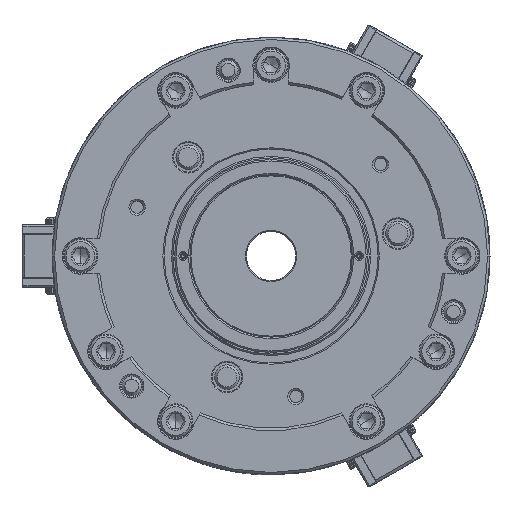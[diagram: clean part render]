
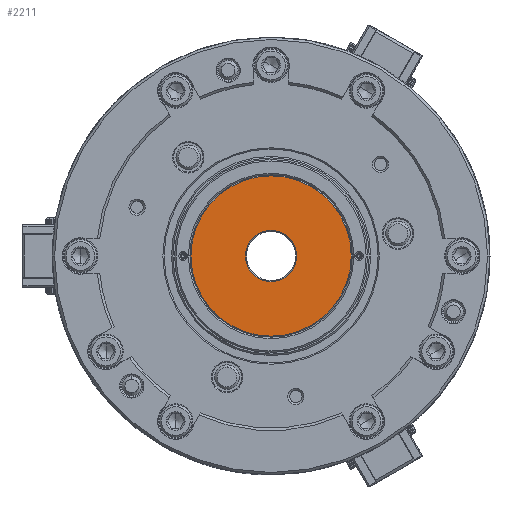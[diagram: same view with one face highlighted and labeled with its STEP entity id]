
A CAD part, left-side view. The second image highlights one B-rep face of the part: STEP entity #2211.
In plain terms, the highlighted planar face has unit normal (-1, 0, 0).
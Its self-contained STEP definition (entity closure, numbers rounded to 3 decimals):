
#2211 = ADVANCED_FACE ( 'NONE', ( #66389, #83500 ), #65345, .T. ) ;
#12753 = AXIS2_PLACEMENT_3D ( 'NONE', #130669, #131714, #17167 ) ;
#15394 = CARTESIAN_POINT ( 'NONE',  ( -28.5, 0., 0. ) ) ;
#16117 = AXIS2_PLACEMENT_3D ( 'NONE', #112217, #81136, #64051 ) ;
#17167 = DIRECTION ( 'NONE',  ( 0., 0., 1. ) ) ;
#19086 = EDGE_LOOP ( 'NONE', ( #141200, #54155 ) ) ;
#19448 = CARTESIAN_POINT ( 'NONE',  ( -28.5, 0., 0. ) ) ;
#21514 = DIRECTION ( 'NONE',  ( 0., 0., 1. ) ) ;
#23612 = DIRECTION ( 'NONE',  ( -1., 0., 0. ) ) ;
#31096 = DIRECTION ( 'NONE',  ( 0., 0., 1. ) ) ;
#32151 = CARTESIAN_POINT ( 'NONE',  ( -28.5, 0., 0. ) ) ;
#34593 = ORIENTED_EDGE ( 'NONE', *, *, #131419, .T. ) ;
#42643 = VERTEX_POINT ( 'NONE', #178509 ) ;
#54155 = ORIENTED_EDGE ( 'NONE', *, *, #149139, .F. ) ;
#59427 = VERTEX_POINT ( 'NONE', #131452 ) ;
#64051 = DIRECTION ( 'NONE',  ( 0., 0., 1. ) ) ;
#65345 = PLANE ( 'NONE',  #12753 ) ;
#66389 = FACE_OUTER_BOUND ( 'NONE', #99034, .T. ) ;
#71499 = EDGE_CURVE ( 'NONE', #185210, #121784, #75561, .T. ) ;
#75561 = CIRCLE ( 'NONE', #157659, 32.6 ) ;
#78233 = DIRECTION ( 'NONE',  ( -1., 0., 0. ) ) ;
#81136 = DIRECTION ( 'NONE',  ( -1., 0., 0. ) ) ;
#83500 = FACE_BOUND ( 'NONE', #19086, .T. ) ;
#87828 = CIRCLE ( 'NONE', #207574, 10.4 ) ;
#97739 = EDGE_CURVE ( 'NONE', #59427, #42643, #87828, .T. ) ;
#99034 = EDGE_LOOP ( 'NONE', ( #131390, #34593 ) ) ;
#106443 = CARTESIAN_POINT ( 'NONE',  ( -28.5, 0., 32.6 ) ) ;
#112217 = CARTESIAN_POINT ( 'NONE',  ( -28.5, 0., 0. ) ) ;
#121784 = VERTEX_POINT ( 'NONE', #106443 ) ;
#125126 = CARTESIAN_POINT ( 'NONE',  ( -28.5, 0., -32.6 ) ) ;
#130669 = CARTESIAN_POINT ( 'NONE',  ( -28.5, -32.6, 0. ) ) ;
#131390 = ORIENTED_EDGE ( 'NONE', *, *, #71499, .T. ) ;
#131419 = EDGE_CURVE ( 'NONE', #121784, #185210, #145171, .T. ) ;
#131452 = CARTESIAN_POINT ( 'NONE',  ( -28.5, 0., 10.4 ) ) ;
#131714 = DIRECTION ( 'NONE',  ( -1., 0., 0. ) ) ;
#141200 = ORIENTED_EDGE ( 'NONE', *, *, #97739, .F. ) ;
#145171 = CIRCLE ( 'NONE', #172084, 32.6 ) ;
#145999 = DIRECTION ( 'NONE',  ( -1., 0., 0. ) ) ;
#149139 = EDGE_CURVE ( 'NONE', #42643, #59427, #173420, .T. ) ;
#157659 = AXIS2_PLACEMENT_3D ( 'NONE', #15394, #145999, #179203 ) ;
#172084 = AXIS2_PLACEMENT_3D ( 'NONE', #32151, #78233, #31096 ) ;
#173420 = CIRCLE ( 'NONE', #16117, 10.4 ) ;
#178509 = CARTESIAN_POINT ( 'NONE',  ( -28.5, 0., -10.4 ) ) ;
#179203 = DIRECTION ( 'NONE',  ( 0., 0., 1. ) ) ;
#185210 = VERTEX_POINT ( 'NONE', #125126 ) ;
#207574 = AXIS2_PLACEMENT_3D ( 'NONE', #19448, #23612, #21514 ) ;
